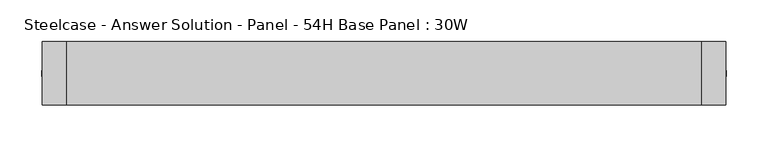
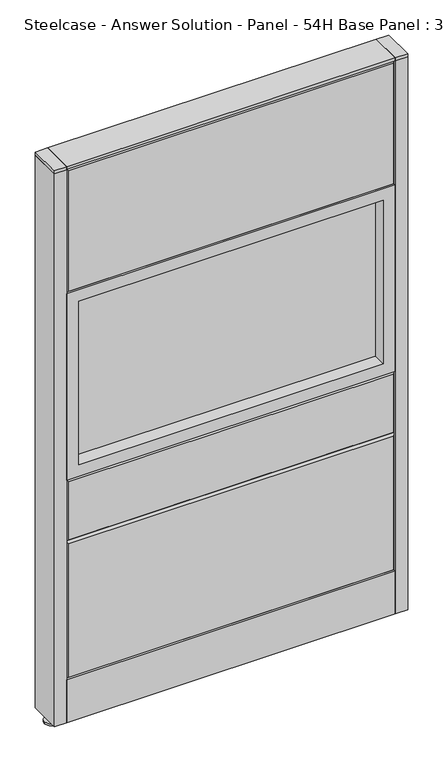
"""IFC4 building model written with IfcOpenShell, lengths in millimetres: furniture geometry, Steelcase - Answer Solution - Panel - 54H Base Panel : 30W."""

from ifc_helpers import new_model, si_unit, point, frame, frame_2d, origin, place, context, project, spatial, polyline, circle_curve, trimmed, segment, composite_curve, outline, extrude, faceted_brep, source, transform, mapped, element, save


def steelcase_answer_solution_panel_54h_base_panel_30w_5fbecbaf(model_context):
    return source(origin(), model_context, "Body", "SolidModel", [
        extrude(outline(composite_curve([segment(trimmed(circle_curve(frame_2d((395.224, 0.0320214)), 5.08), [point((400.304, 0.0320214))], [point((390.144, 0.0320214))], False, "CARTESIAN"), True, "CONTINUOUS"), segment(trimmed(circle_curve(frame_2d((395.224, 0.0320214)), 5.08), [point((390.144, 0.0320214))], [point((400.304, 0.0320214))], False, "CARTESIAN"), True, "CONTINUOUS")], self_intersect=False)), frame((0.0, 0.0, 5.0799671), z_axis=(0.0, 0.0, 1.0), x_axis=(1.0, 0.0, 0.0)), (0.0, 0.0, 1.0), 10.414),
        extrude(outline(composite_curve([segment(trimmed(circle_curve(frame_2d((395.224, 0.0320214)), 15.24), [point((410.464, 0.0320214))], [point((379.984, 0.0320214))], False, "CARTESIAN"), True, "CONTINUOUS"), segment(trimmed(circle_curve(frame_2d((395.224, 0.0320214)), 15.24), [point((379.984, 0.0320214))], [point((410.464, 0.0320214))], False, "CARTESIAN"), True, "CONTINUOUS")], self_intersect=False)), frame((0.0, 0.0, -3.29e-05), z_axis=(0.0, 0.0, 1.0), x_axis=(1.0, 0.0, 0.0)), (0.0, 0.0, 1.0), 5.08),
        extrude(outline(polyline([(409.575, 38.1320408), (409.575, -38.0679592), (381.0, -38.0679592), (381.0, 38.1320408), (409.575, 38.1320408)])), frame((0.0, 0.0, 1370.6348), z_axis=(0.0, 0.0, 1.0), x_axis=(1.0, 0.0, 0.0)), (0.0, 0.0, 1.0), 7.3151671),
        extrude(outline(polyline([(409.575, 38.1320408), (409.575, -38.0679592), (381.0, -38.0679592), (381.0, 38.1320408), (409.575, 38.1320408)])), frame((0.0, 0.0, 15.4939671), z_axis=(0.0, 0.0, 1.0), x_axis=(1.0, 0.0, 0.0)), (0.0, 0.0, 1.0), 1355.1408329),
        extrude(outline(composite_curve([segment(trimmed(circle_curve(frame_2d((-395.224, 0.0320214)), 5.08), [point((-400.304, 0.0320214))], [point((-390.144, 0.0320214))], False, "CARTESIAN"), True, "CONTINUOUS"), segment(trimmed(circle_curve(frame_2d((-395.224, 0.0320214)), 5.08), [point((-390.144, 0.0320214))], [point((-400.304, 0.0320214))], False, "CARTESIAN"), True, "CONTINUOUS")], self_intersect=False)), frame((0.0, 0.0, 5.0799671), z_axis=(0.0, 0.0, 1.0), x_axis=(1.0, 0.0, 0.0)), (0.0, 0.0, 1.0), 10.414),
        extrude(outline(composite_curve([segment(trimmed(circle_curve(frame_2d((-395.224, 0.0320214)), 15.24), [point((-410.464, 0.0320214))], [point((-379.984, 0.0320214))], False, "CARTESIAN"), True, "CONTINUOUS"), segment(trimmed(circle_curve(frame_2d((-395.224, 0.0320214)), 15.24), [point((-379.984, 0.0320214))], [point((-410.464, 0.0320214))], False, "CARTESIAN"), True, "CONTINUOUS")], self_intersect=False)), frame((0.0, 0.0, -3.29e-05), z_axis=(0.0, 0.0, 1.0), x_axis=(1.0, 0.0, 0.0)), (0.0, 0.0, 1.0), 5.08),
        extrude(outline(polyline([(-409.575, 38.1320408), (-381.0, 38.1320408), (-381.0, -38.0679592), (-409.575, -38.0679592), (-409.575, 38.1320408)])), frame((0.0, 0.0, 1370.6348), z_axis=(0.0, 0.0, 1.0), x_axis=(1.0, 0.0, 0.0)), (0.0, 0.0, 1.0), 7.3151671),
        extrude(outline(polyline([(-409.575, 38.1320408), (-381.0, 38.1320408), (-381.0, -38.0679592), (-409.575, -38.0679592), (-409.575, 38.1320408)])), frame((0.0, 0.0, 15.4939671), z_axis=(0.0, 0.0, 1.0), x_axis=(1.0, 0.0, 0.0)), (0.0, 0.0, 1.0), 1355.1408329),
        extrude(outline(polyline([(-353.06, 6.346049), (353.06, 6.346049), (353.06, -6.353951), (-353.06, -6.353951), (-353.06, 6.346049)])), frame((0.0, 0.0, 637.54), z_axis=(0.0, 0.0, 1.0), x_axis=(1.0, 0.0, 0.0)), (0.0, 0.0, 1.0), 401.32),
        extrude(outline(polyline([(1066.8, -381.0), (609.6, -381.0), (609.6, 381.0), (1066.8, 381.0), (1066.8, -381.0)]), holes=[polyline([(1038.86, -353.06), (1038.86, 353.06), (637.54, 353.06), (637.54, -353.06), (1038.86, -353.06)])]), frame((0.0, -38.103951, 0.0), z_axis=(0.0, 1.0, 0.0), x_axis=(0.0, 0.0, 1.0)), (0.0, 0.0, 1.0), 76.2),
        faceted_brep([(-376.174, 38.1635011, 1366.774), (376.174, 38.1635011, 1366.774), (376.174, 38.1635011, 1071.626), (-376.174, 38.1635011, 1071.626), (-381.0, 33.3375011, 1371.6), (-381.0, 33.3375011, 1066.8), (381.0, 33.3375011, 1066.8), (381.0, 33.3375011, 1371.6)], [[[0, 1, 2, 3]], [[4, 5, 6, 7]], [[4, 7, 1, 0]], [[7, 6, 2, 1]], [[6, 5, 3, 2]], [[5, 4, 0, 3]]]),
        faceted_brep([(-376.174, 38.1635011, 604.774), (376.174, 38.1635011, 604.774), (376.174, 38.1635011, 462.026), (-376.174, 38.1635011, 462.026), (-381.0, 33.3375011, 609.6), (-381.0, 33.3375011, 457.2), (381.0, 33.3375011, 457.2), (381.0, 33.3375011, 609.6)], [[[0, 1, 2, 3]], [[4, 5, 6, 7]], [[4, 7, 1, 0]], [[7, 6, 2, 1]], [[6, 5, 3, 2]], [[5, 4, 0, 3]]]),
        faceted_brep([(-376.174, 38.1635011, 452.374), (376.174, 38.1635011, 452.374), (376.174, 38.1635011, 125.476), (-376.174, 38.1635011, 125.476), (-381.0, 33.3375011, 457.2), (-381.0, 33.3375011, 120.65), (381.0, 33.3375011, 120.65), (381.0, 33.3375011, 457.2)], [[[0, 1, 2, 3]], [[4, 5, 6, 7]], [[4, 7, 1, 0]], [[7, 6, 2, 1]], [[6, 5, 3, 2]], [[5, 4, 0, 3]]]),
        extrude(outline(polyline([(353.06, -6.346049), (-353.06, -6.346049), (-353.06, 6.353951), (353.06, 6.353951), (353.06, -6.346049)])), frame((0.0, 0.0, 637.54), z_axis=(0.0, 0.0, 1.0), x_axis=(1.0, 0.0, 0.0)), (0.0, 0.0, 1.0), 401.32),
        extrude(outline(polyline([(1066.8, 381.0), (1066.8, -381.0), (609.6, -381.0), (609.6, 381.0), (1066.8, 381.0)]), holes=[polyline([(1038.86, 353.06), (637.54, 353.06), (637.54, -353.06), (1038.86, -353.06), (1038.86, 353.06)])]), frame((0.0, -38.096049, 0.0), z_axis=(0.0, 1.0, 0.0), x_axis=(0.0, 0.0, 1.0)), (0.0, 0.0, 1.0), 76.2),
        faceted_brep([(376.174, -38.1635011, 1366.774), (-376.174, -38.1635011, 1366.774), (-376.174, -38.1635011, 1071.626), (376.174, -38.1635011, 1071.626), (381.0, -33.3375011, 1371.6), (381.0, -33.3375011, 1066.8), (-381.0, -33.3375011, 1066.8), (-381.0, -33.3375011, 1371.6)], [[[0, 1, 2, 3]], [[4, 5, 6, 7]], [[4, 7, 1, 0]], [[7, 6, 2, 1]], [[6, 5, 3, 2]], [[5, 4, 0, 3]]]),
        faceted_brep([(376.174, -38.1635011, 604.774), (-376.174, -38.1635011, 604.774), (-376.174, -38.1635011, 462.026), (376.174, -38.1635011, 462.026), (381.0, -33.3375011, 609.6), (381.0, -33.3375011, 457.2), (-381.0, -33.3375011, 457.2), (-381.0, -33.3375011, 609.6)], [[[0, 1, 2, 3]], [[4, 5, 6, 7]], [[4, 7, 1, 0]], [[7, 6, 2, 1]], [[6, 5, 3, 2]], [[5, 4, 0, 3]]]),
        faceted_brep([(376.174, -38.1635011, 452.374), (-376.174, -38.1635011, 452.374), (-376.174, -38.1635011, 125.476), (376.174, -38.1635011, 125.476), (381.0, -33.3375011, 457.2), (381.0, -33.3375011, 120.65), (-381.0, -33.3375011, 120.65), (-381.0, -33.3375011, 457.2)], [[[0, 1, 2, 3]], [[4, 5, 6, 7]], [[4, 7, 1, 0]], [[7, 6, 2, 1]], [[6, 5, 3, 2]], [[5, 4, 0, 3]]]),
        extrude(outline(polyline([(381.0, 38.1000194), (381.0, -38.1000194), (-381.0, -38.1000194), (-381.0, 38.1000194), (381.0, 38.1000194)])), frame((0.0, 0.0, 1371.6), z_axis=(0.0, 0.0, 1.0), x_axis=(1.0, 0.0, 0.0)), (0.0, 0.0, 1.0), 6.35),
        extrude(outline(polyline([(25.4000011, 119.8575157), (25.4000011, 120.65), (38.1000194, 120.65), (38.1000194, 15.494), (37.3075215, 15.494), (37.3075215, 119.8575157), (25.4000011, 119.8575157)])), frame((-381.0, 0.0, 0.0), z_axis=(1.0, 0.0, 0.0), x_axis=(0.0, 1.0, 0.0)), (0.0, 0.0, 1.0), 762.0),
        extrude(outline(polyline([(-25.4000011, 119.8575157), (-37.3075215, 119.8575157), (-37.3075215, 15.494), (-38.1000194, 15.494), (-38.1000194, 120.65), (-25.4000011, 120.65), (-25.4000011, 119.8575157)])), frame((-381.0, 0.0, 0.0), z_axis=(1.0, 0.0, 0.0), x_axis=(0.0, 1.0, 0.0)), (0.0, 0.0, 1.0), 762.0),
    ])


if __name__ == "__main__":
    model = new_model("IFC4")
    model_context = context("Model", 3, world=origin())
    ifc_project = project(units=[si_unit("LENGTHUNIT", "METRE", prefix="MILLI")], contexts=[model_context])
    site = spatial("IfcSite", under=ifc_project)
    building = spatial("IfcBuilding", under=site)
    placement = place(None, origin())
    steelcase_answer_solution_panel_54h_base_panel_30w_shape = steelcase_answer_solution_panel_54h_base_panel_30w_5fbecbaf(model_context)
    element("IfcFurniture", 1, ObjectType="Steelcase - Answer Solution - Panel - 54H Base Panel : 30W", at=placement, inside=building, context=model_context, shape_type="MappedRepresentation", body=[
        mapped(steelcase_answer_solution_panel_54h_base_panel_30w_shape, transform((0.0, 0.0, 0.0), x_axis=(1.0, 0.0, 0.0), y_axis=(0.0, 1.0, 0.0), z_axis=(0.0, 0.0, 1.0))),
    ])
    save(model, "model.ifc")
